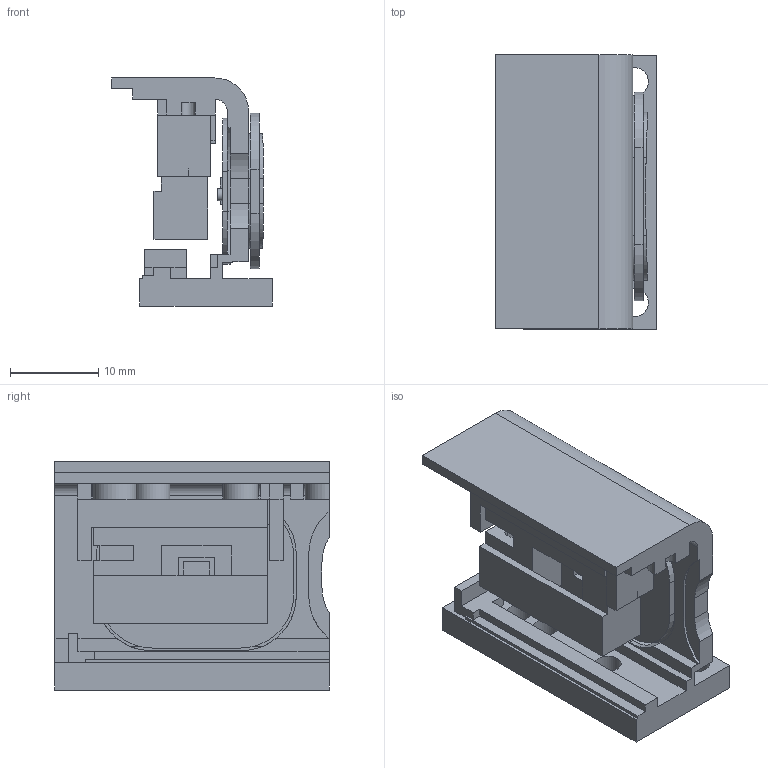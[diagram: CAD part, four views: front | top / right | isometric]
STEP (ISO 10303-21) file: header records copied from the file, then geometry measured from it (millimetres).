
FILE_DESCRIPTION(('Open CASCADE Model'),'2;1');
FILE_NAME('Open CASCADE Shape Model','2026-09-06T11:45:44',('Author'),( 'Open CASCADE'),'Open CASCADE STEP processor 7.7','Open CASCADE 7.7' ,'Unknown');
FILE_SCHEMA(('AUTOMOTIVE_DESIGN { 1 0 10303 214 1 1 1 1 }'));
Length unit declared in the file: millimetre
Products named in the file (12): C01_volume_installation; tub; tub_part; key; key_part; stop; stop_part; carrier; carrier_part; rim; rim_part
Assembly tree (11 placements, depth 4):
  C01_volume_installation
    C01_volume_installation
      tub
        tub_part
      key
        key_part
      stop
        stop_part
      carrier
        carrier_part
      rim
        rim_part
Bounding box: 18.2 x 31 x 25.8 mm (x, y, z)
Volume: 5829.2 mm3; surface area: 6812 mm2
Topology: 5 solids, 5 shells, 242 faces, 659 edges, 438 vertices
Faces by surface type: plane 179, cylinder 62, sphere 1
Full cylindrical faces by diameter (mm): 1.25 x2, 1.4 x2, 1.6 x2, 1.8 x2, 2.6 x2, 3 x3, 3.2 x2, 3.6 x2, 4 x1
Entity records: 17184 total; most frequent: CARTESIAN_POINT 3842, DIRECTION 2447, LINE 1547, VECTOR 1547, ORIENTED_EDGE 1318, PCURVE 1318, DEFINITIONAL_REPRESENTATION 1318, EDGE_CURVE 659
